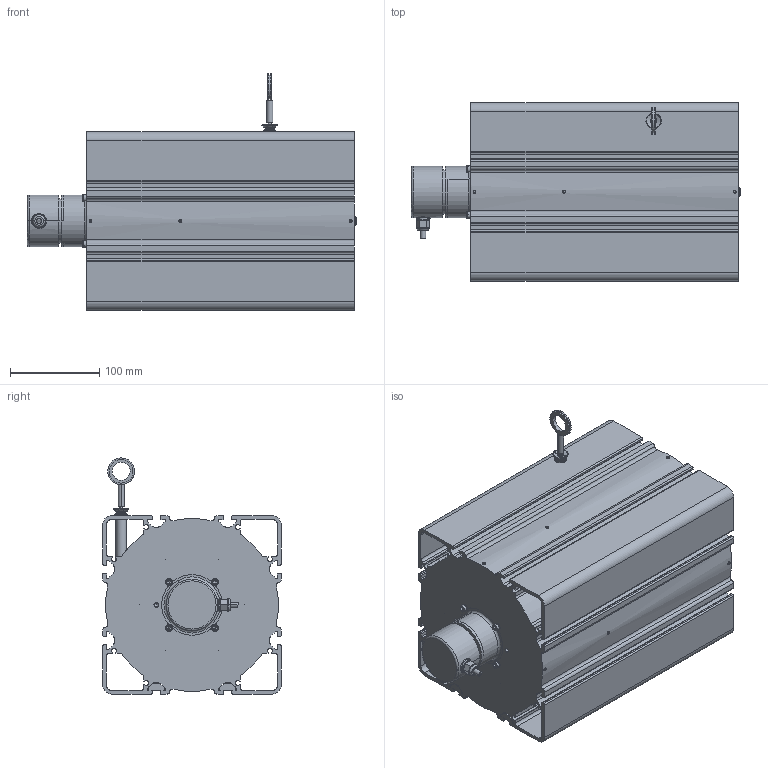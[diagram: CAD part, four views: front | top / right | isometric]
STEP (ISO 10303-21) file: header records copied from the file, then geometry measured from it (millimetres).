
FILE_DESCRIPTION((''),'2;1');
FILE_NAME('','2007-05-29T',(''),(''),'PRO/ENGINEER BY PARAMETRIC TECHNOLOGY CORPORATION, 2003250','PRO/ENGINEER BY PARAMETRIC TECHNOLOGY CORPORATION, 2003250','');
FILE_SCHEMA(('CONFIG_CONTROL_DESIGN'));
Length unit declared in the file: millimetre
Bounding box: 369.17 x 200 x 264.95 mm (x, y, z)
Volume: 2162167.6 mm3; surface area: 863615.9 mm2
Topology: 1 solids, 6 shells, 891 faces, 2362 edges, 1520 vertices
Faces by surface type: cylinder 400, plane 338, cone 102, torus 46, bspline 2, sphere 2, extrusion 1
Entity records: 29225 total; most frequent: CARTESIAN_POINT 6548, DIRECTION 4945, ORIENTED_EDGE 4656, EDGE_CURVE 2328, AXIS2_PLACEMENT_3D 1902, VERTEX_POINT 1520, VECTOR 1141, LINE 1140
